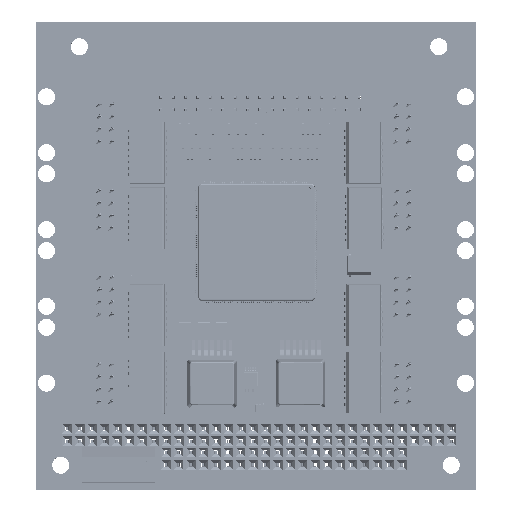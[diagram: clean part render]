
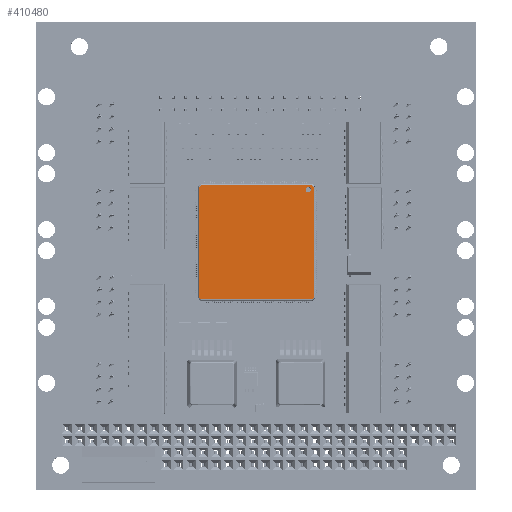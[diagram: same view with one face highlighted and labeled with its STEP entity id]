
A CAD part, top view. The second image highlights one B-rep face of the part: STEP entity #410480.
In plain terms, the highlighted planar face has unit normal (0, 0, 1).
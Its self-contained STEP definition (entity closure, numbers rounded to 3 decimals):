
#11688 = CARTESIAN_POINT ( 'NONE',  ( 55.782, 61.502, 3.185 ) ) ;
#14061 = CARTESIAN_POINT ( 'NONE',  ( 56.558, 39.051, 3.185 ) ) ;
#16601 = CARTESIAN_POINT ( 'NONE',  ( 33.481, 39.376, 3.185 ) ) ;
#17158 = DIRECTION ( 'NONE',  ( 0., 1., 0. ) ) ;
#18053 = ORIENTED_EDGE ( 'NONE', *, *, #29137, .T. ) ;
#18771 = EDGE_CURVE ( 'NONE', #269392, #358257, #102656, .T. ) ;
#19820 = VERTEX_POINT ( 'NONE', #123903 ) ;
#23397 = LINE ( 'NONE', #446897, #345727 ) ;
#29137 = EDGE_CURVE ( 'NONE', #395566, #230620, #448159, .T. ) ;
#30825 = CARTESIAN_POINT ( 'NONE',  ( 33.862, 38.995, 3.185 ) ) ;
#30829 = DIRECTION ( 'NONE',  ( 0., 0., -1. ) ) ;
#31480 = DIRECTION ( 'NONE',  ( -0.707, 0.707, 0. ) ) ;
#35319 = VERTEX_POINT ( 'NONE', #464527 ) ;
#44117 = EDGE_CURVE ( 'NONE', #230620, #19820, #150679, .T. ) ;
#52274 = DIRECTION ( 'NONE',  ( 0., 0., -1. ) ) ;
#57752 = VERTEX_POINT ( 'NONE', #255910 ) ;
#60840 = VECTOR ( 'NONE', #17158, 1000. ) ;
#67380 = AXIS2_PLACEMENT_3D ( 'NONE', #378144, #30829, #456720 ) ;
#75577 = CARTESIAN_POINT ( 'NONE',  ( 56.638, 39.051, 3.185 ) ) ;
#102656 = LINE ( 'NONE', #135696, #211375 ) ;
#110247 = ORIENTED_EDGE ( 'NONE', *, *, #163821, .T. ) ;
#115291 = ORIENTED_EDGE ( 'NONE', *, *, #500583, .T. ) ;
#123903 = CARTESIAN_POINT ( 'NONE',  ( 56.558, 62.453, 3.185 ) ) ;
#135696 = CARTESIAN_POINT ( 'NONE',  ( 33.481, 39.297, 3.185 ) ) ;
#139292 = VERTEX_POINT ( 'NONE', #14061 ) ;
#147493 = DIRECTION ( 'NONE',  ( 0.707, -0.707, 0. ) ) ;
#150679 = LINE ( 'NONE', #378800, #420069 ) ;
#157812 = CARTESIAN_POINT ( 'NONE',  ( 55.782, 60.952, 3.185 ) ) ;
#161660 = AXIS2_PLACEMENT_3D ( 'NONE', #11688, #52274, #283177 ) ;
#163821 = EDGE_CURVE ( 'NONE', #57752, #269392, #365589, .T. ) ;
#197849 = CARTESIAN_POINT ( 'NONE',  ( 56.883, 39.376, 3.185 ) ) ;
#211375 = VECTOR ( 'NONE', #257552, 1000. ) ;
#216071 = VECTOR ( 'NONE', #378134, 1000. ) ;
#216268 = EDGE_CURVE ( 'NONE', #395842, #395842, #364129, .T. ) ;
#221472 = ORIENTED_EDGE ( 'NONE', *, *, #216268, .T. ) ;
#223825 = LINE ( 'NONE', #30825, #297491 ) ;
#230620 = VERTEX_POINT ( 'NONE', #298272 ) ;
#255910 = CARTESIAN_POINT ( 'NONE',  ( 33.806, 62.453, 3.185 ) ) ;
#257552 = DIRECTION ( 'NONE',  ( 0., -1., 0. ) ) ;
#261777 = FACE_BOUND ( 'NONE', #319063, .T. ) ;
#263049 = ORIENTED_EDGE ( 'NONE', *, *, #354660, .T. ) ;
#268519 = LINE ( 'NONE', #75577, #403187 ) ;
#269392 = VERTEX_POINT ( 'NONE', #397126 ) ;
#280266 = EDGE_CURVE ( 'NONE', #35319, #139292, #268519, .T. ) ;
#283177 = DIRECTION ( 'NONE',  ( 0., -1., 0. ) ) ;
#292359 = DIRECTION ( 'NONE',  ( 0.707, 0.707, 0. ) ) ;
#297491 = VECTOR ( 'NONE', #147493, 1000. ) ;
#298272 = CARTESIAN_POINT ( 'NONE',  ( 56.883, 62.128, 3.185 ) ) ;
#301796 = CARTESIAN_POINT ( 'NONE',  ( 33.726, 62.453, 3.185 ) ) ;
#303656 = ORIENTED_EDGE ( 'NONE', *, *, #280266, .T. ) ;
#319063 = EDGE_LOOP ( 'NONE', ( #221472 ) ) ;
#345727 = VECTOR ( 'NONE', #292359, 1000. ) ;
#354660 = EDGE_CURVE ( 'NONE', #19820, #57752, #448853, .T. ) ;
#358257 = VERTEX_POINT ( 'NONE', #16601 ) ;
#364129 = CIRCLE ( 'NONE', #161660, 0.55 ) ;
#365589 = LINE ( 'NONE', #375592, #216071 ) ;
#374493 = CARTESIAN_POINT ( 'NONE',  ( 56.883, 62.208, 3.185 ) ) ;
#375592 = CARTESIAN_POINT ( 'NONE',  ( 33.425, 62.072, 3.185 ) ) ;
#378134 = DIRECTION ( 'NONE',  ( -0.707, -0.707, 0. ) ) ;
#378144 = CARTESIAN_POINT ( 'NONE',  ( 45.182, 50.752, 3.185 ) ) ;
#378800 = CARTESIAN_POINT ( 'NONE',  ( 56.502, 62.509, 3.185 ) ) ;
#387443 = DIRECTION ( 'NONE',  ( 1., 0., 0. ) ) ;
#395566 = VERTEX_POINT ( 'NONE', #197849 ) ;
#395842 = VERTEX_POINT ( 'NONE', #157812 ) ;
#397126 = CARTESIAN_POINT ( 'NONE',  ( 33.481, 62.128, 3.185 ) ) ;
#403187 = VECTOR ( 'NONE', #387443, 1000. ) ;
#410480 = ADVANCED_FACE ( 'NONE', ( #261777, #416089 ), #494900, .F. ) ;
#416089 = FACE_OUTER_BOUND ( 'NONE', #441805, .T. ) ;
#420069 = VECTOR ( 'NONE', #31480, 1000. ) ;
#425345 = VECTOR ( 'NONE', #491995, 1000. ) ;
#425423 = ORIENTED_EDGE ( 'NONE', *, *, #18771, .T. ) ;
#441805 = EDGE_LOOP ( 'NONE', ( #303656, #492894, #18053, #466064, #263049, #110247, #425423, #115291 ) ) ;
#446897 = CARTESIAN_POINT ( 'NONE',  ( 56.939, 39.432, 3.185 ) ) ;
#448159 = LINE ( 'NONE', #374493, #60840 ) ;
#448853 = LINE ( 'NONE', #301796, #425345 ) ;
#456720 = DIRECTION ( 'NONE',  ( 0., 1., 0. ) ) ;
#464378 = EDGE_CURVE ( 'NONE', #139292, #395566, #23397, .T. ) ;
#464527 = CARTESIAN_POINT ( 'NONE',  ( 33.806, 39.051, 3.185 ) ) ;
#466064 = ORIENTED_EDGE ( 'NONE', *, *, #44117, .T. ) ;
#491995 = DIRECTION ( 'NONE',  ( -1., 0., 0. ) ) ;
#492894 = ORIENTED_EDGE ( 'NONE', *, *, #464378, .T. ) ;
#494900 = PLANE ( 'NONE',  #67380 ) ;
#500583 = EDGE_CURVE ( 'NONE', #358257, #35319, #223825, .T. ) ;
